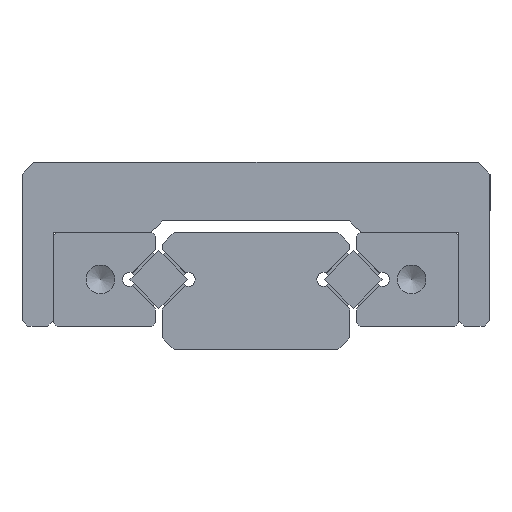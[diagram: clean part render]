
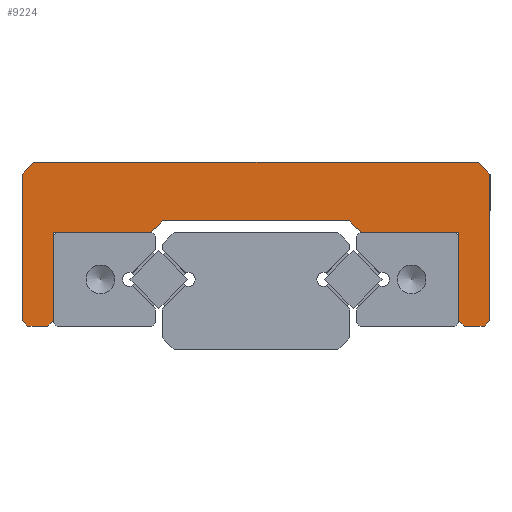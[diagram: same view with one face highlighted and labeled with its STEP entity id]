
A CAD part, left-side view. The second image highlights one B-rep face of the part: STEP entity #9224.
In plain terms, the highlighted planar face has unit normal (-1, 0, 0).
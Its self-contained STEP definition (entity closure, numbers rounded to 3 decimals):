
#7352=CARTESIAN_POINT('',(0.0,20.0,9.0));
#7353=VERTEX_POINT('',#7352);
#7361=CARTESIAN_POINT('',(0.0,20.,-3.5));
#7362=VERTEX_POINT('',#7361);
#7369=CARTESIAN_POINT('',(0.0,20.,-3.5));
#7370=DIRECTION('',(0.0,0.0,1.0));
#7371=VECTOR('',#7370,12.5);
#7372=LINE('',#7369,#7371);
#7373=EDGE_CURVE('',#7362,#7353,#7372,.T.);
#7383=CARTESIAN_POINT('',(0.0,-20.0,9.));
#7384=VERTEX_POINT('',#7383);
#7391=CARTESIAN_POINT('',(0.0,-20.,-3.5));
#7392=VERTEX_POINT('',#7391);
#7393=CARTESIAN_POINT('',(0.0,-20.0,9.));
#7394=DIRECTION('',(0.0,0.0,-1.0));
#7395=VECTOR('',#7394,12.5);
#7396=LINE('',#7393,#7395);
#7397=EDGE_CURVE('',#7384,#7392,#7396,.T.);
#8693=CARTESIAN_POINT('',(0.0,19.5,-4.0));
#8694=VERTEX_POINT('',#8693);
#8701=CARTESIAN_POINT('',(0.0,19.5,-4.0));
#8702=DIRECTION('',(0.0,0.707,0.707));
#8703=VECTOR('',#8702,0.707);
#8704=LINE('',#8701,#8703);
#8705=EDGE_CURVE('',#8694,#7362,#8704,.T.);
#8716=CARTESIAN_POINT('',(0.0,-19.5,-4.0));
#8717=VERTEX_POINT('',#8716);
#8724=CARTESIAN_POINT('',(0.0,-17.8,-4.0));
#8725=VERTEX_POINT('',#8724);
#8726=CARTESIAN_POINT('',(0.0,-19.5,-4.0));
#8727=DIRECTION('',(0.0,1.0,0.0));
#8728=VECTOR('',#8727,1.7);
#8729=LINE('',#8726,#8728);
#8730=EDGE_CURVE('',#8717,#8725,#8729,.T.);
#8749=CARTESIAN_POINT('',(0.0,-20.,-3.5));
#8750=DIRECTION('',(0.0,0.707,-0.707));
#8751=VECTOR('',#8750,0.707);
#8752=LINE('',#8749,#8751);
#8753=EDGE_CURVE('',#7392,#8717,#8752,.T.);
#8764=CARTESIAN_POINT('',(0.0,17.8,-4.));
#8765=VERTEX_POINT('',#8764);
#8772=CARTESIAN_POINT('',(0.0,17.8,-4.));
#8773=DIRECTION('',(0.0,1.0,0.0));
#8774=VECTOR('',#8773,1.7);
#8775=LINE('',#8772,#8774);
#8776=EDGE_CURVE('',#8765,#8694,#8775,.T.);
#8788=CARTESIAN_POINT('',(0.0,17.31,-3.51));
#8789=VERTEX_POINT('',#8788);
#8798=CARTESIAN_POINT('',(0.0,17.31,-3.51));
#8799=DIRECTION('',(0.0,0.707,-0.707));
#8800=VECTOR('',#8799,0.693);
#8801=LINE('',#8798,#8800);
#8802=EDGE_CURVE('',#8789,#8765,#8801,.T.);
#8830=CARTESIAN_POINT('',(0.0,19.0,10.));
#8831=VERTEX_POINT('',#8830);
#8832=CARTESIAN_POINT('',(0.0,20.0,9.0));
#8833=DIRECTION('',(0.0,-0.707,0.707));
#8834=VECTOR('',#8833,1.414);
#8835=LINE('',#8832,#8834);
#8836=EDGE_CURVE('',#7353,#8831,#8835,.T.);
#8852=CARTESIAN_POINT('',(0.0,-19.0,10.));
#8853=VERTEX_POINT('',#8852);
#8862=CARTESIAN_POINT('',(0.0,19.0,10.));
#8863=DIRECTION('',(0.0,-1.0,0.0));
#8864=VECTOR('',#8863,38.0);
#8865=LINE('',#8862,#8864);
#8866=EDGE_CURVE('',#8831,#8853,#8865,.T.);
#8944=CARTESIAN_POINT('',(0.0,-19.0,10.));
#8945=DIRECTION('',(0.0,-0.707,-0.707));
#8946=VECTOR('',#8945,1.414);
#8947=LINE('',#8944,#8946);
#8948=EDGE_CURVE('',#8853,#7384,#8947,.T.);
#8959=CARTESIAN_POINT('',(0.0,-8.,5.));
#8960=VERTEX_POINT('',#8959);
#8967=CARTESIAN_POINT('',(0.0,8.,5.));
#8968=VERTEX_POINT('',#8967);
#8969=CARTESIAN_POINT('',(0.0,-8.,5.));
#8970=DIRECTION('',(0.0,1.0,0.0));
#8971=VECTOR('',#8970,16.0);
#8972=LINE('',#8969,#8971);
#8973=EDGE_CURVE('',#8960,#8968,#8972,.T.);
#9087=CARTESIAN_POINT('',(0.0,8.99,4.01));
#9088=VERTEX_POINT('',#9087);
#9104=CARTESIAN_POINT('',(0.0,8.,5.));
#9105=DIRECTION('',(0.0,0.707,-0.707));
#9106=VECTOR('',#9105,1.4);
#9107=LINE('',#9104,#9106);
#9108=EDGE_CURVE('',#8968,#9088,#9107,.T.);
#9126=CARTESIAN_POINT('',(0.0,17.31,4.01));
#9127=VERTEX_POINT('',#9126);
#9134=CARTESIAN_POINT('',(0.0,17.31,4.01));
#9135=DIRECTION('',(0.0,0.0,-1.0));
#9136=VECTOR('',#9135,7.52);
#9137=LINE('',#9134,#9136);
#9138=EDGE_CURVE('',#9127,#8789,#9137,.T.);
#9149=CARTESIAN_POINT('',(0.0,8.99,4.01));
#9150=DIRECTION('',(0.0,1.0,0.0));
#9151=VECTOR('',#9150,8.32);
#9152=LINE('',#9149,#9151);
#9153=EDGE_CURVE('',#9088,#9127,#9152,.T.);
#9173=CARTESIAN_POINT('',(0.0,0.,4.983));
#9174=DIRECTION('',(1.0,0.0,0.0));
#9175=DIRECTION('',(0.0,0.0,-1.0));
#9176=AXIS2_PLACEMENT_3D('',#9173,#9174,#9175);
#9177=PLANE('',#9176);
#9178=CARTESIAN_POINT('',(0.0,-17.31,4.01));
#9179=VERTEX_POINT('',#9178);
#9180=CARTESIAN_POINT('',(0.0,-8.99,4.01));
#9181=VERTEX_POINT('',#9180);
#9182=CARTESIAN_POINT('',(0.0,-17.31,4.01));
#9183=DIRECTION('',(0.0,1.0,0.0));
#9184=VECTOR('',#9183,8.32);
#9185=LINE('',#9182,#9184);
#9186=EDGE_CURVE('',#9179,#9181,#9185,.T.);
#9187=ORIENTED_EDGE('',*,*,#9186,.F.);
#9188=CARTESIAN_POINT('',(0.0,-17.31,-3.51));
#9189=VERTEX_POINT('',#9188);
#9190=CARTESIAN_POINT('',(0.0,-17.31,-3.51));
#9191=DIRECTION('',(0.0,0.0,1.0));
#9192=VECTOR('',#9191,7.52);
#9193=LINE('',#9190,#9192);
#9194=EDGE_CURVE('',#9189,#9179,#9193,.T.);
#9195=ORIENTED_EDGE('',*,*,#9194,.F.);
#9196=CARTESIAN_POINT('',(0.0,-17.8,-4.0));
#9197=DIRECTION('',(0.0,0.707,0.707));
#9198=VECTOR('',#9197,0.693);
#9199=LINE('',#9196,#9198);
#9200=EDGE_CURVE('',#8725,#9189,#9199,.T.);
#9201=ORIENTED_EDGE('',*,*,#9200,.F.);
#9202=ORIENTED_EDGE('',*,*,#8730,.F.);
#9203=ORIENTED_EDGE('',*,*,#8753,.F.);
#9204=ORIENTED_EDGE('',*,*,#7397,.F.);
#9205=ORIENTED_EDGE('',*,*,#8948,.F.);
#9206=ORIENTED_EDGE('',*,*,#8866,.F.);
#9207=ORIENTED_EDGE('',*,*,#8836,.F.);
#9208=ORIENTED_EDGE('',*,*,#7373,.F.);
#9209=ORIENTED_EDGE('',*,*,#8705,.F.);
#9210=ORIENTED_EDGE('',*,*,#8776,.F.);
#9211=ORIENTED_EDGE('',*,*,#8802,.F.);
#9212=ORIENTED_EDGE('',*,*,#9138,.F.);
#9213=ORIENTED_EDGE('',*,*,#9153,.F.);
#9214=ORIENTED_EDGE('',*,*,#9108,.F.);
#9215=ORIENTED_EDGE('',*,*,#8973,.F.);
#9216=CARTESIAN_POINT('',(0.0,-8.99,4.01));
#9217=DIRECTION('',(0.0,0.707,0.707));
#9218=VECTOR('',#9217,1.4);
#9219=LINE('',#9216,#9218);
#9220=EDGE_CURVE('',#9181,#8960,#9219,.T.);
#9221=ORIENTED_EDGE('',*,*,#9220,.F.);
#9222=EDGE_LOOP('',(#9187,#9195,#9201,#9202,#9203,#9204,#9205,#9206,#9207,#9208,#9209,#9210,#9211,#9212,#9213,#9214,#9215,#9221));
#9223=FACE_OUTER_BOUND('',#9222,.T.);
#9224=ADVANCED_FACE('',(#9223),#9177,.F.);
